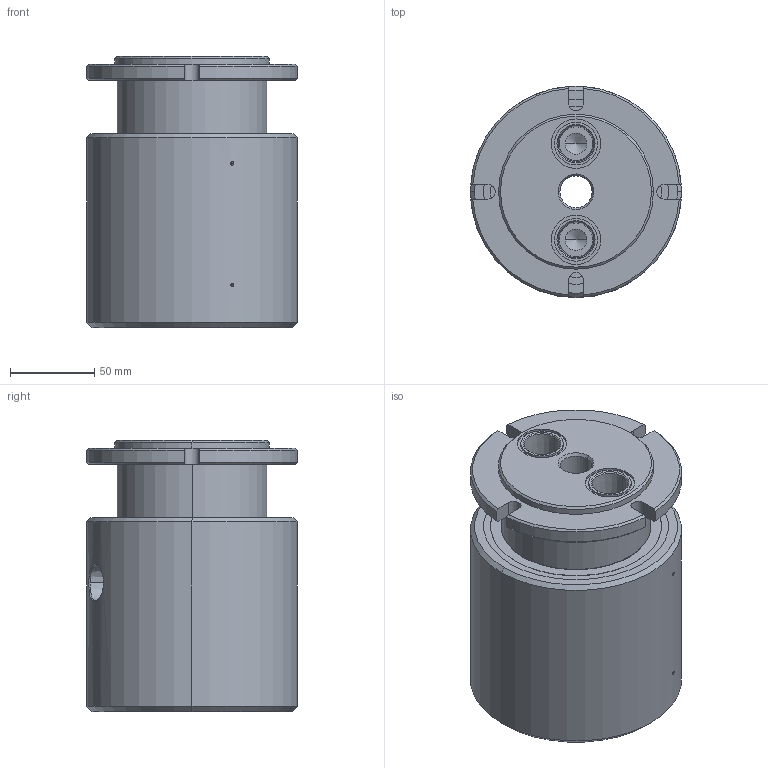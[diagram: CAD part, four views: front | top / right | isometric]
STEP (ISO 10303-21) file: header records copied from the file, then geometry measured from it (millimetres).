
FILE_DESCRIPTION (( 'STEP AP214' ), '1' );
FILE_NAME ('GP(M)-421.STEP', '2013-02-05T23:09:21', ( '' ), ( '' ), 'SwSTEP 2.0', 'SolidWorks 2011', '' );
FILE_SCHEMA (( 'AUTOMOTIVE_DESIGN' ));
Length unit declared in the file: inch
Products named in the file (1): GP(M)-421
Bounding box: 125.4 x 125.4 x 161.16 mm (x, y, z)
Volume: 1631984.4 mm3; surface area: 117570.7 mm2
Topology: 1 solids, 1 shells, 179 faces, 424 edges, 255 vertices
Faces by surface type: cylinder 79, cone 58, plane 36, bspline 4, torus 2
Entity records: 6090 total; most frequent: CARTESIAN_POINT 1625, DIRECTION 910, ORIENTED_EDGE 796, EDGE_CURVE 398, AXIS2_PLACEMENT_3D 372, VERTEX_POINT 255, EDGE_LOOP 215, CIRCLE 196
